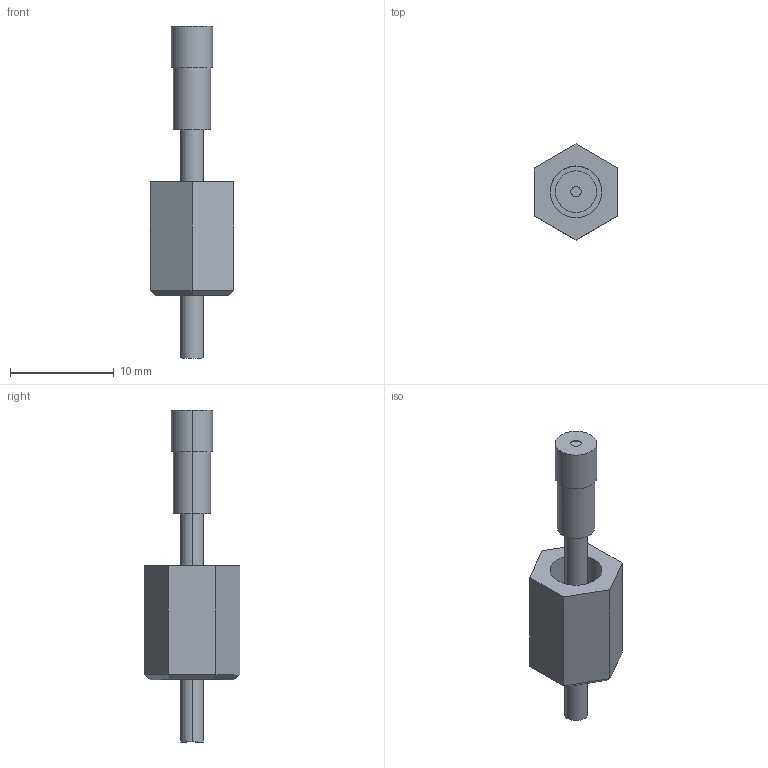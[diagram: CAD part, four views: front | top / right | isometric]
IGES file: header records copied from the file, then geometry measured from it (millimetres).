
Start section: SolidWorks IGES FILE using analytic representation for surfaces
Global section: file name: \\intra-srv04\開発データ\CAD_Data\CAD委員会\3D電子ｶﾀﾛｸﾞ\製品カタログ（新）\0_IGES\FT-J8.IGS,41HSolidWorks 2004; native system: by SolidWorks Corporation; preprocessor: Version 5.3; author: mf1158; date: 050908.113637; units: millimetre
Bounding box: 8 x 9.24 x 32 mm (x, y, z)
Volume: 642 mm3; surface area: 828.9 mm2
Topology: 2 solids, 2 shells, 32 faces, 66 edges, 42 vertices
Faces by surface type: plane 20, revolution 12
